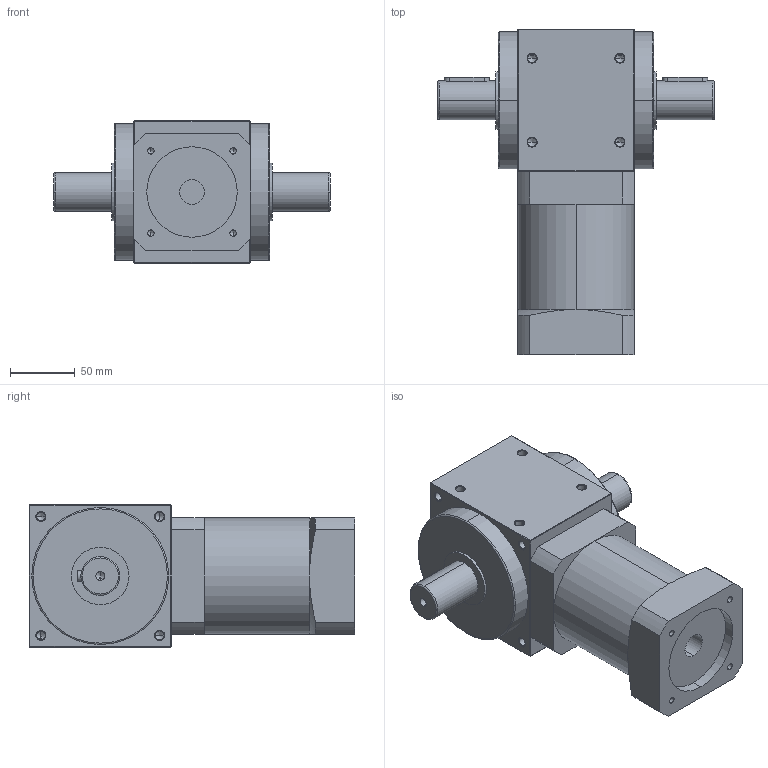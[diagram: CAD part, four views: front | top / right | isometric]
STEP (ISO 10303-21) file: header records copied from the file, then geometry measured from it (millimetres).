
FILE_DESCRIPTION (( 'STEP AP214' ), '1' );
FILE_NAME ('AAW110AS-10-2P-L1(3-10) 19-70-90-M6.STEP', '2020-11-24T03:44:00', ( '微软用户' ), ( '微软中国' ), 'SwSTEP 2.0', 'SolidWorks 2014', '' );
FILE_SCHEMA (( 'AUTOMOTIVE_DESIGN' ));
Length unit declared in the file: millimetre
Products named in the file (2): AAW110AS-10-2P-L1(3-10) 19-70-90-M6
Bounding box: 214 x 252 x 110 mm (x, y, z)
Volume: 2357382.6 mm3; surface area: 159317.9 mm2
Topology: 2 solids, 2 shells, 243 faces, 601 edges, 339 vertices
Faces by surface type: cone 96, cylinder 84, plane 55, torus 8
Entity records: 9199 total; most frequent: CARTESIAN_POINT 1400, DIRECTION 1274, ORIENTED_EDGE 1098, EDGE_CURVE 549, AXIS2_PLACEMENT_3D 507, VERTEX_POINT 339, EDGE_LOOP 280, CIRCLE 262
